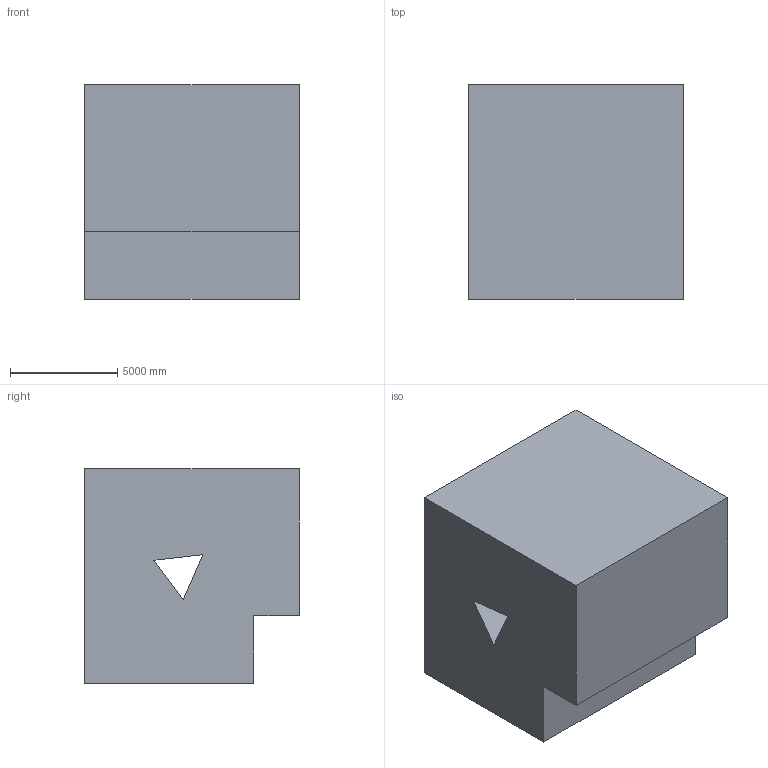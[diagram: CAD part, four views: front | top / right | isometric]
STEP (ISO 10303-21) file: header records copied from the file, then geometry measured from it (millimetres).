
FILE_DESCRIPTION (( 'STEP AP203' ), '1' );
FILE_NAME ('213.STEP', '2022-07-28T13:55:29', ( 'user' ), ( '' ), 'SwSTEP 2.0', 'SolidWorks 2021', '' );
FILE_SCHEMA (( 'CONFIG_CONTROL_DESIGN' ));
Length unit declared in the file: centimetre
Products named in the file (1): 213
Bounding box: 10000 x 10000 x 10000 mm (x, y, z)
Volume: 874474267952.1 mm3; surface area: 690054483 mm2
Topology: 1 solids, 1 shells, 18 faces, 45 edges, 30 vertices
Faces by surface type: plane 18
Entity records: 610 total; most frequent: CARTESIAN_POINT 94, ORIENTED_EDGE 90, DIRECTION 83, LINE 45, EDGE_CURVE 45, VECTOR 45, VERTEX_POINT 30, EDGE_LOOP 21
